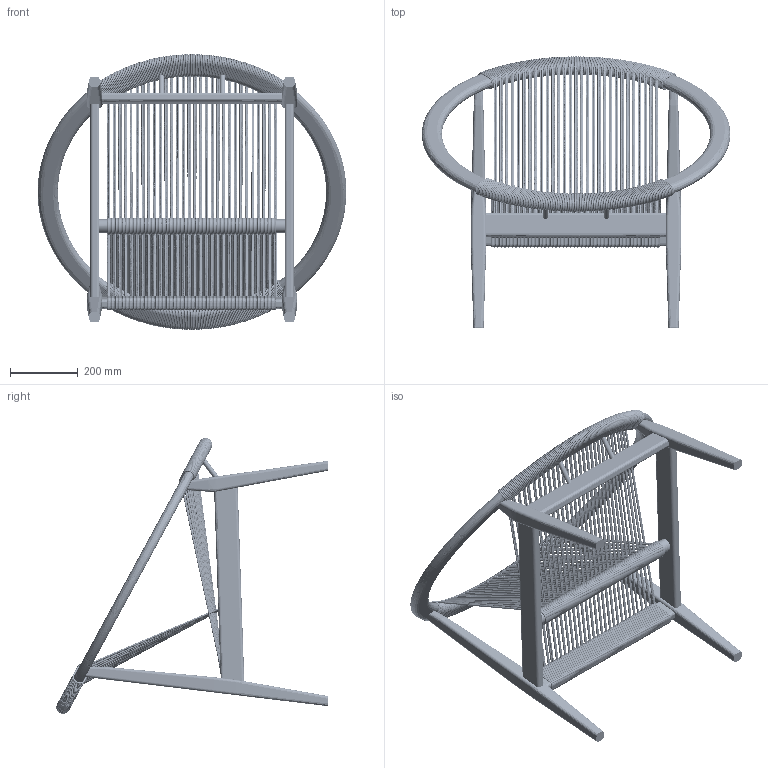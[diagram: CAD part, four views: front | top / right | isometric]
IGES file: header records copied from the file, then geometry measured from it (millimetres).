
Global section: file name: Vincentsheppard_Frida_Lounge_Chair; native system: unknown; preprocessor: unknown; author: unknown; organization: unknown; date: 20210129.155717; units: millimetre
Bounding box: 910 x 800.09 x 813.24 mm (x, y, z)
Volume: 15581283.5 mm3; surface area: 3657476.7 mm2
Topology: 622 solids, 622 shells, 3271 faces, 8829 edges, 5702 vertices
Faces by surface type: bspline 3271
